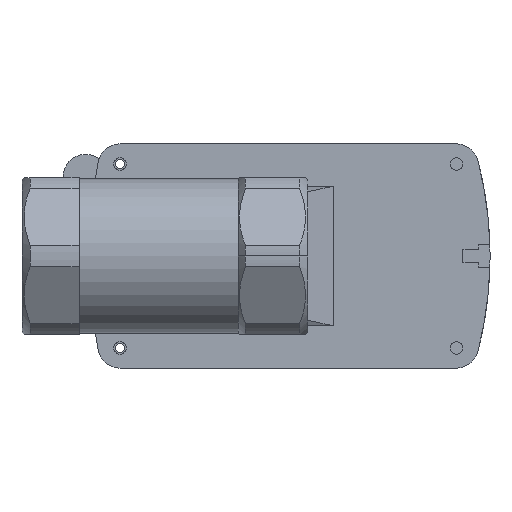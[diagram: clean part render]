
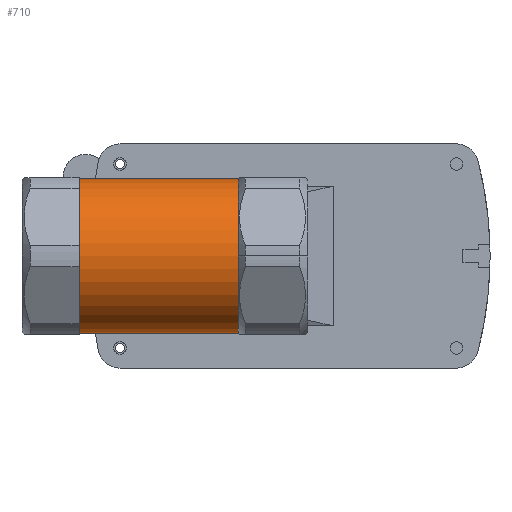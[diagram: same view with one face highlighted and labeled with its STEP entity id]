
A CAD part, front view. The second image highlights one B-rep face of the part: STEP entity #710.
In plain terms, the highlighted cylindrical face has radius 34.504 mm (diameter 69.007 mm), a partial arc.
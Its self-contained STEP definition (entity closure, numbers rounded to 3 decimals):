
#77 = ORIENTED_EDGE ( 'NONE', *, *, #920, .T. ) ;
#194 = FACE_OUTER_BOUND ( 'NONE', #3000, .T. ) ;
#309 = EDGE_CURVE ( 'NONE', #5795, #6680, #4818, .T. ) ;
#710 = ADVANCED_FACE ( 'NONE', ( #194 ), #4752, .T. ) ;
#808 = CARTESIAN_POINT ( 'NONE',  ( -93.224, -121.5, 34.503 ) ) ;
#920 = EDGE_CURVE ( 'NONE', #5354, #6347, #7442, .T. ) ;
#1470 = DIRECTION ( 'NONE',  ( -1., 0., 0. ) ) ;
#1501 = AXIS2_PLACEMENT_3D ( 'NONE', #6442, #4427, #3499 ) ;
#1701 = ORIENTED_EDGE ( 'NONE', *, *, #2506, .F. ) ;
#1717 = EDGE_CURVE ( 'NONE', #6347, #6680, #2966, .T. ) ;
#1842 = CARTESIAN_POINT ( 'NONE',  ( -22.501, -121.5, 0. ) ) ;
#1861 = CARTESIAN_POINT ( 'NONE',  ( -22.501, -121.5, 34.503 ) ) ;
#2313 = ORIENTED_EDGE ( 'NONE', *, *, #309, .F. ) ;
#2411 = DIRECTION ( 'NONE',  ( 0., 0., 1. ) ) ;
#2441 = CARTESIAN_POINT ( 'NONE',  ( -22.501, -121.5, -34.503 ) ) ;
#2506 = EDGE_CURVE ( 'NONE', #5273, #5795, #5965, .T. ) ;
#2749 = DIRECTION ( 'NONE',  ( -1., 0., 0. ) ) ;
#2779 = CARTESIAN_POINT ( 'NONE',  ( -93.224, -121.5, -34.503 ) ) ;
#2922 = VECTOR ( 'NONE', #4237, 1000. ) ;
#2966 = LINE ( 'NONE', #1861, #2922 ) ;
#3000 = EDGE_LOOP ( 'NONE', ( #1701, #3776, #77, #4902, #2313 ) ) ;
#3072 = CARTESIAN_POINT ( 'NONE',  ( -22.237, -121.5, 34.503 ) ) ;
#3113 = CARTESIAN_POINT ( 'NONE',  ( -22.237, -121.5, -34.503 ) ) ;
#3289 = VECTOR ( 'NONE', #4787, 1000. ) ;
#3324 = CARTESIAN_POINT ( 'NONE',  ( -22.237, -156.003, 0. ) ) ;
#3499 = DIRECTION ( 'NONE',  ( 0., 0., 1. ) ) ;
#3776 = ORIENTED_EDGE ( 'NONE', *, *, #4691, .T. ) ;
#3824 = CIRCLE ( 'NONE', #5422, 34.503 ) ;
#4127 = AXIS2_PLACEMENT_3D ( 'NONE', #7398, #2749, #5217 ) ;
#4237 = DIRECTION ( 'NONE',  ( -1., 0., 0. ) ) ;
#4389 = CARTESIAN_POINT ( 'NONE',  ( -22.237, -121.5, 0. ) ) ;
#4427 = DIRECTION ( 'NONE',  ( -1., 0., 0. ) ) ;
#4691 = EDGE_CURVE ( 'NONE', #5273, #5354, #3824, .T. ) ;
#4699 = AXIS2_PLACEMENT_3D ( 'NONE', #1842, #6585, #2411 ) ;
#4752 = CYLINDRICAL_SURFACE ( 'NONE', #4699, 34.503 ) ;
#4787 = DIRECTION ( 'NONE',  ( -1., 0., 0. ) ) ;
#4818 = CIRCLE ( 'NONE', #1501, 34.503 ) ;
#4902 = ORIENTED_EDGE ( 'NONE', *, *, #1717, .T. ) ;
#5217 = DIRECTION ( 'NONE',  ( 0., -1., 0. ) ) ;
#5273 = VERTEX_POINT ( 'NONE', #3113 ) ;
#5354 = VERTEX_POINT ( 'NONE', #3324 ) ;
#5422 = AXIS2_PLACEMENT_3D ( 'NONE', #4389, #1470, #6850 ) ;
#5795 = VERTEX_POINT ( 'NONE', #2779 ) ;
#5965 = LINE ( 'NONE', #2441, #3289 ) ;
#6347 = VERTEX_POINT ( 'NONE', #3072 ) ;
#6442 = CARTESIAN_POINT ( 'NONE',  ( -93.224, -121.5, 0. ) ) ;
#6585 = DIRECTION ( 'NONE',  ( -1., 0., 0. ) ) ;
#6680 = VERTEX_POINT ( 'NONE', #808 ) ;
#6850 = DIRECTION ( 'NONE',  ( 0., -1., 0. ) ) ;
#7398 = CARTESIAN_POINT ( 'NONE',  ( -22.237, -121.5, 0. ) ) ;
#7442 = CIRCLE ( 'NONE', #4127, 34.503 ) ;
